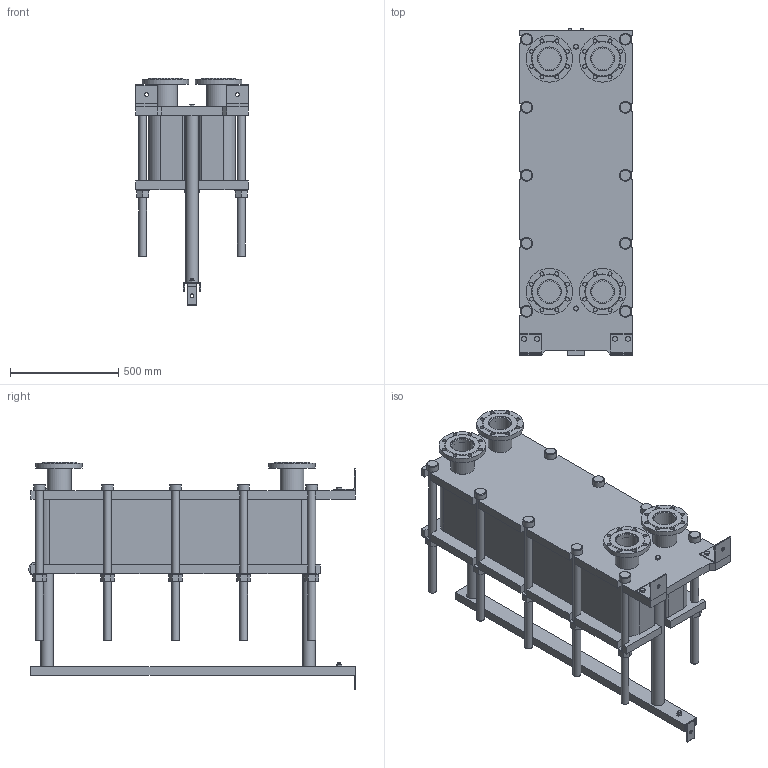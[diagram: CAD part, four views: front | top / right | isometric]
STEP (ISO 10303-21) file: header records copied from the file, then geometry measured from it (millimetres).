
FILE_DESCRIPTION(/* description */ (''),/* implementation_level */ '2;1');
FILE_NAME(/* name */ 'C:\Users\zhuro\Desktop\ENCO\TO\ЭН-04\ЭН-0,5-04-88-1.stp',/* time_stamp */ '2022-06-06T10:52:39+03:00',/* author */ ('zhuro'),/* organization */ (''),/* preprocessor_version */ 'ST-DEVELOPER v18.1',/* originating_system */ 'Autodesk Inventor 2022',/* authorisation */ '');
FILE_SCHEMA (('AUTOMOTIVE_DESIGN { 1 0 10303 214 3 1 1 }'));
Length unit declared in the file: millimetre
Products named in the file (1): ЭН-0,5-04-88-1
Bounding box: 520 x 1510 x 1049 mm (x, y, z)
Volume: 222285812 mm3; surface area: 8091380.8 mm2
Topology: 45 solids, 45 shells, 668 faces, 1611 edges, 1048 vertices
Faces by surface type: plane 457, cylinder 166, cone 39, torus 6
Full cylindrical faces by diameter (mm): 8 x4, 10 x2, 16 x8, 18 x35, 36 x25, 40 x2, 42 x1, 45 x4, 54 x10, 57 x2, 60 x10, 68 x2, 100 x4, 110 x8, 215 x4
Entity records: 23607 total; most frequent: CARTESIAN_POINT 7348, DIRECTION 3371, ORIENTED_EDGE 3142, EDGE_CURVE 1571, AXIS2_PLACEMENT_3D 1199, VERTEX_POINT 1044, LINE 973, VECTOR 973
